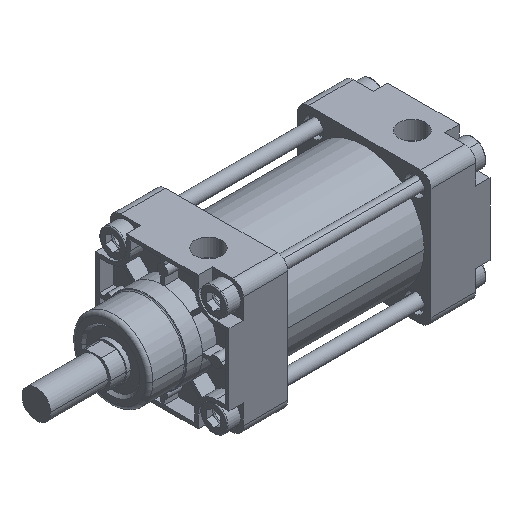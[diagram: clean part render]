
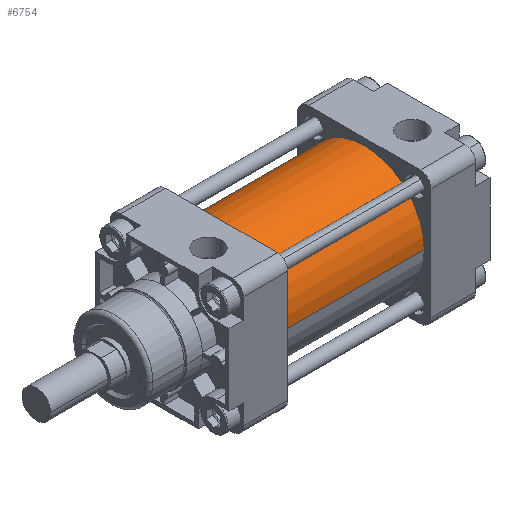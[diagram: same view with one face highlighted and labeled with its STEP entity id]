
A CAD part, isometric view. The second image highlights one B-rep face of the part: STEP entity #6754.
In plain terms, the highlighted cylindrical face has radius 33.5 mm (diameter 67 mm), a partial arc.
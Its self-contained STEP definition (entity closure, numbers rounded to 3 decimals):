
#6391=CARTESIAN_POINT('Vertex',(80.,-33.5,0.)) ;
#6393=CARTESIAN_POINT('Vertex',(80.,33.5,0.)) ;
#6396=CARTESIAN_POINT('Axis2P3D Location',(80.,0.,0.)) ;
#6724=CARTESIAN_POINT('Axis2P3D Location',(40.,0.,0.)) ;
#6729=CARTESIAN_POINT('Line Origine',(40.,33.5,0.)) ;
#6733=CARTESIAN_POINT('Vertex',(0.,33.5,0.)) ;
#6736=CARTESIAN_POINT('Axis2P3D Location',(0.,0.,0.)) ;
#6740=CARTESIAN_POINT('Vertex',(0.,-33.5,0.)) ;
#6743=CARTESIAN_POINT('Line Origine',(40.,-33.5,0.)) ;
#6397=DIRECTION('Axis2P3D Direction',(1.,0.,0.)) ;
#6725=DIRECTION('Axis2P3D Direction',(1.,0.,0.)) ;
#6726=DIRECTION('Axis2P3D XDirection',(0.,1.,0.)) ;
#6730=DIRECTION('Vector Direction',(1.,0.,0.)) ;
#6737=DIRECTION('Axis2P3D Direction',(1.,0.,0.)) ;
#6744=DIRECTION('Vector Direction',(1.,0.,0.)) ;
#6398=AXIS2_PLACEMENT_3D('Circle Axis2P3D',#6396,#6397,$) ;
#6727=AXIS2_PLACEMENT_3D('Cylinder Axis2P3D',#6724,#6725,#6726) ;
#6738=AXIS2_PLACEMENT_3D('Circle Axis2P3D',#6736,#6737,$) ;
#6749=ORIENTED_EDGE('',*,*,#6735,.F.) ;
#6750=ORIENTED_EDGE('',*,*,#6742,.T.) ;
#6751=ORIENTED_EDGE('',*,*,#6747,.T.) ;
#6752=ORIENTED_EDGE('',*,*,#6400,.F.) ;
#6731=VECTOR('Line Direction',#6730,1.) ;
#6745=VECTOR('Line Direction',#6744,1.) ;
#6754=ADVANCED_FACE('PartBody',(#6753),#6728,.T.) ;
#6399=CIRCLE('generated circle',#6398,33.5) ;
#6739=CIRCLE('generated circle',#6738,33.5) ;
#6728=CYLINDRICAL_SURFACE('generated cylinder',#6727,33.5) ;
#6400=EDGE_CURVE('',#6394,#6392,#6399,.T.) ;
#6735=EDGE_CURVE('',#6734,#6394,#6732,.T.) ;
#6742=EDGE_CURVE('',#6734,#6741,#6739,.T.) ;
#6747=EDGE_CURVE('',#6741,#6392,#6746,.T.) ;
#6748=EDGE_LOOP('',(#6749,#6750,#6751,#6752)) ;
#6753=FACE_OUTER_BOUND('',#6748,.T.) ;
#6732=LINE('Line',#6729,#6731) ;
#6746=LINE('Line',#6743,#6745) ;
#6392=VERTEX_POINT('',#6391) ;
#6394=VERTEX_POINT('',#6393) ;
#6734=VERTEX_POINT('',#6733) ;
#6741=VERTEX_POINT('',#6740) ;
